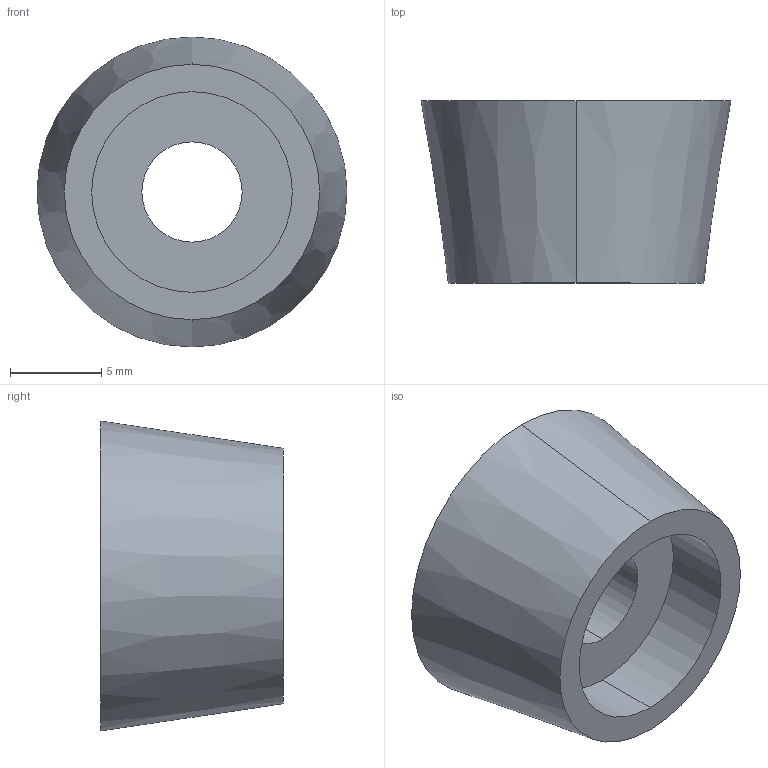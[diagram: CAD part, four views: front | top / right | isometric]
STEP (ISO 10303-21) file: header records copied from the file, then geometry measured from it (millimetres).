
FILE_DESCRIPTION (( 'STEP AP214' ), '1' );
FILE_NAME ('Foot.STEP', '2018-05-10T20:42:12', ( '' ), ( '' ), 'SwSTEP 2.0', 'SolidWorks 2015', '' );
FILE_SCHEMA (( 'AUTOMOTIVE_DESIGN' ));
Length unit declared in the file: millimetre
Products named in the file (1): Foot
Bounding box: 17 x 10 x 17 mm (x, y, z)
Volume: 1391.5 mm3; surface area: 1062.5 mm2
Topology: 1 solids, 1 shells, 9 faces, 18 edges, 12 vertices
Faces by surface type: cylinder 4, plane 3, cone 2
Entity records: 282 total; most frequent: DIRECTION 50, CARTESIAN_POINT 40, ORIENTED_EDGE 36, AXIS2_PLACEMENT_3D 22, EDGE_CURVE 18, CIRCLE 12, EDGE_LOOP 12, VERTEX_POINT 12
